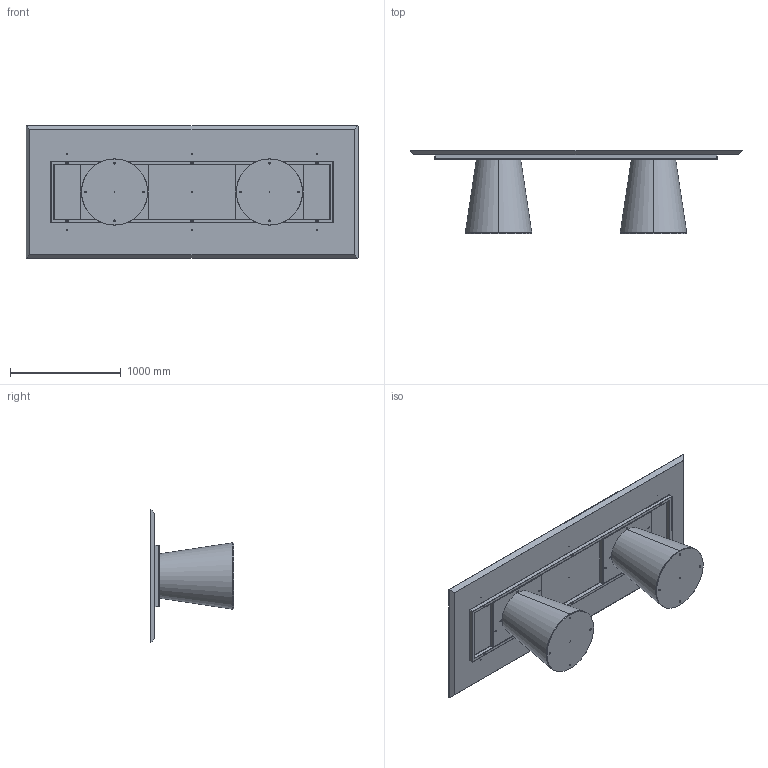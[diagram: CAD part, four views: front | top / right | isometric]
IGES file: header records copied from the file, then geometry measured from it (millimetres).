
Start section: SolidWorks IGES file using analytic representation for surfaces
Global section: file name: Y:\eforma\TECNICO\SOLIDWORKS\E-FORMA\1-TAVOLI\TEO\08 modelli 3D web\TO24W_Teo_300x120_Wood Rectangular.IGS; native system: SolidWorks 2022; preprocessor: SolidWorks 2022; author: eforma.tech; date: 240802.113515; units: millimetre
Bounding box: 3000 x 751.19 x 1200 mm (x, y, z)
Volume: 192215480.3 mm3; surface area: 16987842.5 mm2
Topology: 28 solids, 28 shells, 1132 faces, 2602 edges, 1491 vertices
Faces by surface type: revolution 638, plane 494
